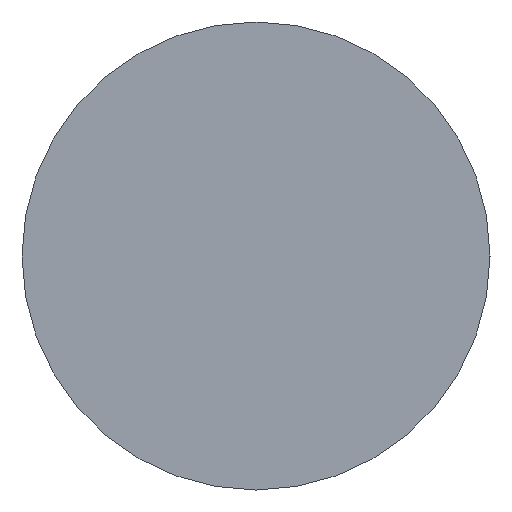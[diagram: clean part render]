
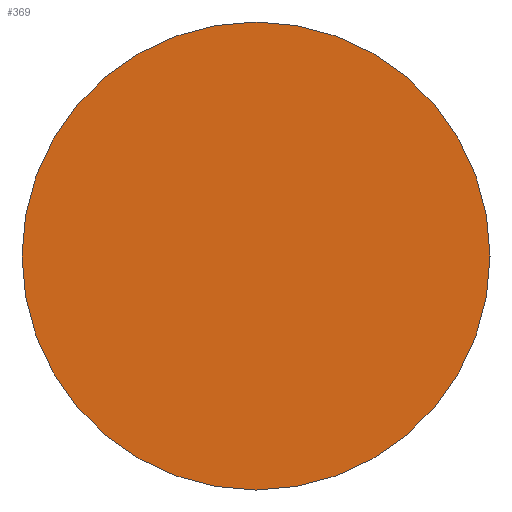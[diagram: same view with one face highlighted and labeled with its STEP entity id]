
A CAD part, left-side view. The second image highlights one B-rep face of the part: STEP entity #369.
In plain terms, the highlighted planar face has unit normal (-1, 0, 0).
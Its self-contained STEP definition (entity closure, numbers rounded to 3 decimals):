
#36 = DIRECTION ( 'NONE',  ( 0., 0., 1. ) ) ;
#39 = DIRECTION ( 'NONE',  ( -1., 0., 0. ) ) ;
#42 = AXIS2_PLACEMENT_3D ( 'NONE', #204, #147, #170 ) ;
#56 = VERTEX_POINT ( 'NONE', #357 ) ;
#66 = VERTEX_POINT ( 'NONE', #527 ) ;
#82 = CIRCLE ( 'NONE', #585, 16. ) ;
#92 = EDGE_CURVE ( 'NONE', #66, #56, #82, .T. ) ;
#116 = EDGE_LOOP ( 'NONE', ( #658, #336 ) ) ;
#147 = DIRECTION ( 'NONE',  ( 1., 0., 0. ) ) ;
#170 = DIRECTION ( 'NONE',  ( 0., 0., -1. ) ) ;
#204 = CARTESIAN_POINT ( 'NONE',  ( 0., 0., 0. ) ) ;
#206 = PLANE ( 'NONE',  #42 ) ;
#239 = EDGE_CURVE ( 'NONE', #56, #66, #609, .T. ) ;
#244 = AXIS2_PLACEMENT_3D ( 'NONE', #348, #39, #36 ) ;
#336 = ORIENTED_EDGE ( 'NONE', *, *, #92, .T. ) ;
#348 = CARTESIAN_POINT ( 'NONE',  ( 0., 0., 0. ) ) ;
#357 = CARTESIAN_POINT ( 'NONE',  ( 0., 0., 16. ) ) ;
#369 = ADVANCED_FACE ( 'NONE', ( #684 ), #206, .F. ) ;
#413 = CARTESIAN_POINT ( 'NONE',  ( 0., 0., 0. ) ) ;
#419 = DIRECTION ( 'NONE',  ( 0., 0., 1. ) ) ;
#423 = DIRECTION ( 'NONE',  ( -1., 0., 0. ) ) ;
#527 = CARTESIAN_POINT ( 'NONE',  ( 0., 0., -16. ) ) ;
#585 = AXIS2_PLACEMENT_3D ( 'NONE', #413, #423, #419 ) ;
#609 = CIRCLE ( 'NONE', #244, 16. ) ;
#658 = ORIENTED_EDGE ( 'NONE', *, *, #239, .T. ) ;
#684 = FACE_OUTER_BOUND ( 'NONE', #116, .T. ) ;
